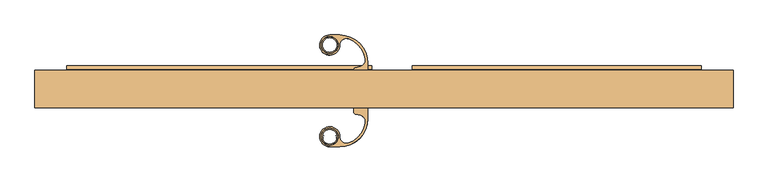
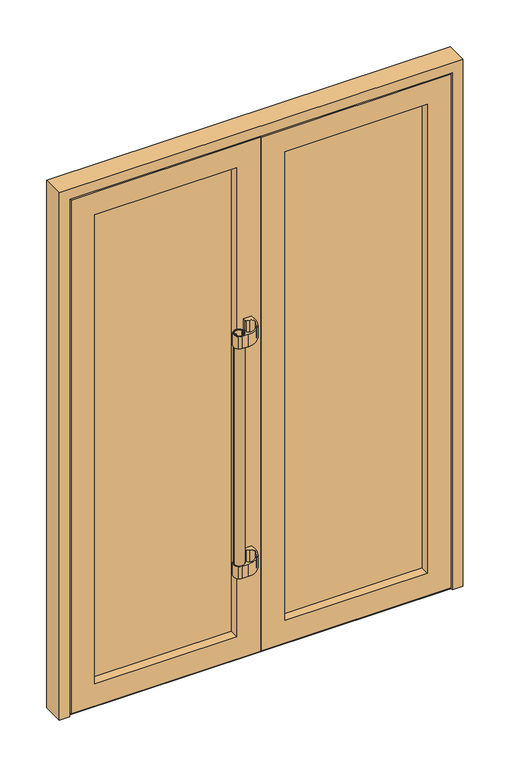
"""IFC4 building model written with IfcOpenShell, lengths in millimetres: door geometry, Dvokrilna vrata__ : Dvokrilna vrata__."""

import ifcopenshell
import ifcopenshell.guid

model = None  # the IFC model being written
_history = None  # IfcOwnerHistory: only IFC2X3 demands one
_inside = {}  # id of a spatial element -> (the spatial element, [elements in it])
_under = {}  # id of a project, library or spatial element -> (it, [spatial elements below it])
_declared = {}  # id of a project -> (the project, [libraries it declares])
_typed = {}  # id of a type object -> (the type object, [elements of that type])
_made_of = {}  # id of a material, layer set ... -> (it, [elements and type objects made of it])


def new_model(schema):
    """Start an empty IFC model of exactly this schema.

    Asked for "IFC4X3", IfcOpenShell would pick the latest addendum, in which some entities
    have other attributes; the version numbers below select the first issue.
    IFC2X3 requires an IfcOwnerHistory on every rooted entity: one is made here for all.
    """
    global model, _history
    if schema == "IFC4X3":
        model = ifcopenshell.file(schema_version=(4, 3, 0, 0))
    else:
        model = ifcopenshell.file(schema=schema)
    _inside.clear()
    _under.clear()
    _declared.clear()
    _typed.clear()
    _made_of.clear()
    _history = None
    if model.schema == "IFC2X3":
        org = make("IfcOrganization", Name="unknown")
        user = make(
            "IfcPersonAndOrganization",
            ThePerson=make("IfcPerson", FamilyName="unknown"),
            TheOrganization=org,
        )
        app = make(
            "IfcApplication",
            ApplicationDeveloper=org,
            Version="unknown",
            ApplicationFullName="unknown",
            ApplicationIdentifier="unknown",
        )
        _history = make(
            "IfcOwnerHistory",
            OwningUser=user,
            OwningApplication=app,
            ChangeAction="ADDED",
            CreationDate=0,
        )
    return model


def make(cls, **values):
    """One entity of the class cls with the attributes given. An attribute that is None is left unset."""
    return model.create_entity(
        cls, **{name: value for name, value in values.items() if value is not None}
    )


def rooted(cls, **values):
    """An entity with a GlobalId (a new one), such as an element, a storey or a relation."""
    return make(cls, GlobalId=ifcopenshell.guid.new(), OwnerHistory=_history, **values)


def si_unit(unit_type, name, prefix=None):
    """IfcSIUnit, for example si_unit("LENGTHUNIT", "METRE", prefix="MILLI")."""
    return make("IfcSIUnit", UnitType=unit_type, Prefix=prefix, Name=name)


def assignment(units):
    """IfcUnitAssignment: the units of a project."""
    return None if units is None else make("IfcUnitAssignment", Units=units)


def point(xyz):
    """IfcCartesianPoint."""
    return None if xyz is None else make("IfcCartesianPoint", Coordinates=xyz)


def direction(xyz):
    """IfcDirection."""
    return None if xyz is None else make("IfcDirection", DirectionRatios=xyz)


def frame(location, z_axis=None, x_axis=None):
    """IfcAxis2Placement3D, a coordinate frame: its origin and axes. An axis left out is left unset."""
    return make(
        "IfcAxis2Placement3D",
        Location=point(location),
        Axis=direction(z_axis),
        RefDirection=direction(x_axis),
    )


def frame_2d(location, x_axis=None):
    """IfcAxis2Placement2D, a coordinate frame in the plane: its origin and x axis."""
    return make(
        "IfcAxis2Placement2D", Location=point(location), RefDirection=direction(x_axis)
    )


def origin():
    """The frame at (0, 0, 0) with its axes left unset."""
    return frame((0.0, 0.0, 0.0))


def place(relative_to, where):
    """IfcLocalPlacement: puts the frame where relative to a parent placement (None: the world)."""
    return make(
        "IfcLocalPlacement", PlacementRelTo=relative_to, RelativePlacement=where
    )


def context(
    kind, dimensions, precision=None, world=None, true_north=None, identifier=None
):
    """IfcGeometricRepresentationContext, for example the 3D "Model" context."""
    return make(
        "IfcGeometricRepresentationContext",
        ContextIdentifier=identifier,
        ContextType=kind,
        CoordinateSpaceDimension=dimensions,
        Precision=precision,
        WorldCoordinateSystem=world,
        TrueNorth=true_north,
    )


def project(units=None, contexts=None):
    """IfcProject with its units and contexts."""
    return rooted(
        "IfcProject",
        Name="project",
        RepresentationContexts=contexts,
        UnitsInContext=assignment(units),
    )


def spatial(cls, under=None, at=None, **own):
    """A site, building, storey or space (cls), placed at a placement, below another one or the project."""
    s = rooted(cls, ObjectPlacement=at, **own)
    if under is not None:
        _under.setdefault(under.id(), (under, []))[1].append(s)
    return s


def polyline(points):
    """IfcPolyline through the points."""
    return make("IfcPolyline", Points=[point(p) for p in points])


def circle_curve(where, radius):
    """IfcCircle in the frame where."""
    return make("IfcCircle", Position=where, Radius=radius)


def trimmed(basis, trim1, trim2, sense, master):
    """IfcTrimmedCurve: the piece of a basis curve between two trims."""
    return make(
        "IfcTrimmedCurve",
        BasisCurve=basis,
        Trim1=trim1,
        Trim2=trim2,
        SenseAgreement=sense,
        MasterRepresentation=master,
    )


def segment(curve, same_sense, transition):
    """IfcCompositeCurveSegment."""
    return make(
        "IfcCompositeCurveSegment",
        Transition=transition,
        SameSense=same_sense,
        ParentCurve=curve,
    )


def composite_curve(segments, self_intersect=None):
    """IfcCompositeCurve: segments joined end to end."""
    return make("IfcCompositeCurve", Segments=segments, SelfIntersect=self_intersect)


def outline(outer, holes=None, kind="AREA"):
    """IfcArbitraryClosedProfileDef: a profile drawn as a closed curve; with holes, ...WithVoids."""
    if holes is None:
        return make("IfcArbitraryClosedProfileDef", ProfileType=kind, OuterCurve=outer)
    return make(
        "IfcArbitraryProfileDefWithVoids",
        ProfileType=kind,
        OuterCurve=outer,
        InnerCurves=holes,
    )


def extrude(swept, where, along, depth):
    """IfcExtrudedAreaSolid: the profile swept, set in the frame where, extruded along a direction by depth."""
    return make(
        "IfcExtrudedAreaSolid",
        SweptArea=swept,
        Position=where,
        ExtrudedDirection=direction(along),
        Depth=depth,
    )


def faces_of(points, faces, orient=None, outer=None):
    """IfcFace entities. A face is a list of loops; a loop is a list of indices into points, from 0.

    orient and outer hold one flag for each loop. By default every Orientation is true, the
    first loop of a face is its IfcFaceOuterBound and the others are IfcFaceBound.
    """
    made = []
    for i, loops in enumerate(faces):
        bounds = []
        for j, loop in enumerate(loops):
            is_outer = j == 0 if outer is None else outer[i][j]
            bounds.append(
                make(
                    "IfcFaceOuterBound" if is_outer else "IfcFaceBound",
                    Bound=make("IfcPolyLoop", Polygon=[points[k] for k in loop]),
                    Orientation=True if orient is None else orient[i][j],
                )
            )
        made.append(make("IfcFace", Bounds=bounds))
    return made


def faceted_brep(points, faces, orient=None, outer=None, voids=None):
    """IfcFacetedBrep: a solid bounded by flat faces; with voids (closed shells), ...WithVoids."""
    shared = [point(p) for p in points]
    hull = make("IfcClosedShell", CfsFaces=faces_of(shared, faces, orient, outer))
    if voids is None:
        return make("IfcFacetedBrep", Outer=hull)
    return make(
        "IfcFacetedBrepWithVoids",
        Outer=hull,
        Voids=[
            make(cls, CfsFaces=faces_of(shared, fs, o, b)) for cls, fs, o, b in voids
        ],
    )


def shape(context_of_items, identifier, shape_type, items):
    """IfcShapeRepresentation: the items that make up one representation, for example the "Body"."""
    return make(
        "IfcShapeRepresentation",
        ContextOfItems=context_of_items,
        RepresentationIdentifier=identifier,
        RepresentationType=shape_type,
        Items=items,
    )


def source(mapping_origin, context_of_items, identifier, shape_type, items):
    """IfcRepresentationMap: a shape defined once, which mapped items show again and again."""
    return make(
        "IfcRepresentationMap",
        MappingOrigin=mapping_origin,
        MappedRepresentation=shape(context_of_items, identifier, shape_type, items),
    )


def transform(
    local_origin,
    x_axis=None,
    y_axis=None,
    z_axis=None,
    scale=None,
    scale2=None,
    scale3=None,
    uniform=True,
):
    """IfcCartesianTransformationOperator3D, or its non-uniform kind. x_axis, y_axis, z_axis: its Axis1, 2, 3."""
    if uniform:
        return make(
            "IfcCartesianTransformationOperator3D",
            Axis1=direction(x_axis),
            Axis2=direction(y_axis),
            LocalOrigin=point(local_origin),
            Scale=scale,
            Axis3=direction(z_axis),
        )
    return make(
        "IfcCartesianTransformationOperator3DnonUniform",
        Axis1=direction(x_axis),
        Axis2=direction(y_axis),
        LocalOrigin=point(local_origin),
        Scale=scale,
        Axis3=direction(z_axis),
        Scale2=scale2,
        Scale3=scale3,
    )


def mapped(mapping_source, mapping_target):
    """IfcMappedItem: shows the shape of a source again, moved by a transform."""
    return make(
        "IfcMappedItem", MappingSource=mapping_source, MappingTarget=mapping_target
    )


def made_of(thing, what):
    """Note that an element or type object is made of a material, layer set ...; save() writes the relation."""
    if what is not None:
        _made_of.setdefault(what.id(), (what, []))[1].append(thing)
    return thing


def element(
    cls,
    number,
    at=None,
    inside=None,
    cuts=None,
    type_object=None,
    material=None,
    context=None,
    identifier="Body",
    shape_type=None,
    held_by="IfcProductDefinitionShape",
    body=None,
    shapes=None,
    **own,
):
    """One element of the class cls, such as IfcWall. Its Tag is "e" and its number.

    at: its placement. inside: the storey or other place that contains it. cuts: it is an
    opening in that element (IfcRelVoidsElement). A single representation is given by context,
    identifier, shape_type and body (its items); several are given by shapes. held_by: the class
    of the entity that holds the representations. save() writes the other relations.
    """
    e = rooted(cls, Tag="e%d" % number, ObjectPlacement=at, **own)
    if body is not None:
        shapes = [shape(context, identifier, shape_type, body)]
    if shapes is not None:
        e.Representation = make(held_by, Representations=shapes)
    if inside is not None:
        _inside.setdefault(inside.id(), (inside, []))[1].append(e)
    if cuts is not None:
        rooted(
            "IfcRelVoidsElement", RelatingBuildingElement=cuts, RelatedOpeningElement=e
        )
    if type_object is not None:
        _typed.setdefault(type_object.id(), (type_object, []))[1].append(e)
    return made_of(e, material)


def aggregate(whole, parts):
    """IfcRelAggregates: a whole, such as a stair, and the parts it consists of."""
    return rooted("IfcRelAggregates", RelatingObject=whole, RelatedObjects=parts)


def save(model, path):
    """Write the relations noted so far, then the file.

    IfcRelAggregates (storeys below a building ...), IfcRelContainedInSpatialStructure (elements
    in a storey), IfcRelDefinesByType, IfcRelAssociatesMaterial and IfcRelDeclares: one each for
    every whole, place, type object, material and project.
    """
    for whole, parts in _under.values():
        aggregate(whole, parts)
    for where, things in _inside.values():
        rooted(
            "IfcRelContainedInSpatialStructure",
            RelatedElements=things,
            RelatingStructure=where,
        )
    for kind, things in _typed.values():
        rooted("IfcRelDefinesByType", RelatedObjects=things, RelatingType=kind)
    for what, things in _made_of.values():
        rooted("IfcRelAssociatesMaterial", RelatedObjects=things, RelatingMaterial=what)
    for by, libraries in _declared.values():
        rooted("IfcRelDeclares", RelatingContext=by, RelatedDefinitions=libraries)
    model.write(path)


def plane_surface(at):
    """IfcPlane: the flat surface through the origin of the frame at, square to its z axis."""
    return make("IfcPlane", Position=at)


def cylinder_surface(at, radius):
    """IfcCylindricalSurface: all points at the distance radius from the z axis of the frame at."""
    return make("IfcCylindricalSurface", Position=at, Radius=radius)


def advanced_brep(points, edges, surfaces, faces):
    """IfcAdvancedBrep: a solid bounded by faces that lie on surfaces and meet in shared edges.

    An edge is (start, end): straight between two places in points (the first is 0);
    or (start, end, curve); or (start, end, curve, False) where it runs against its curve.
    A face is (place in surfaces, loops), or (place, loops, False) where it looks against
    its surface's normal. A loop lists edges by number (the first is 1), with a minus sign
    where the edge is run from its end to its start. The first loop is the outer one.
    """
    corners = [point(p) for p in points]
    vertices = [make("IfcVertexPoint", VertexGeometry=c) for c in corners]
    made = []
    for start, end, *more in edges:
        made.append(
            make(
                "IfcEdgeCurve",
                EdgeStart=vertices[start],
                EdgeEnd=vertices[end],
                EdgeGeometry=more[0] if more else make("IfcPolyline", Points=[corners[start], corners[end]]),
                SameSense=more[1] if len(more) > 1 else True,
            )
        )
    hull = []
    for where, loops, *sense in faces:
        bounds = []
        for j, loop in enumerate(loops):
            ring = [make("IfcOrientedEdge", EdgeElement=made[abs(k) - 1], Orientation=k > 0) for k in loop]
            bounds.append(
                make(
                    "IfcFaceOuterBound" if j == 0 else "IfcFaceBound",
                    Bound=make("IfcEdgeLoop", EdgeList=ring),
                    Orientation=True,
                )
            )
        hull.append(make("IfcAdvancedFace", Bounds=bounds, FaceSurface=surfaces[where], SameSense=sense[0] if sense else True))
    return make("IfcAdvancedBrep", Outer=make("IfcClosedShell", CfsFaces=hull))


def door_72423dee(model_context):
    return source(origin(), model_context, "Body", "SolidModel", [
        extrude(outline(composite_curve([segment(trimmed(circle_curve(frame_2d((-122.8709534, 116.9803023)), 19.0), [point((-103.8709534, 116.9803023))], [point((-141.8709534, 116.9803023))], False, "CARTESIAN"), True, "CONTINUOUS"), segment(trimmed(circle_curve(frame_2d((-122.8709534, 116.9803023)), 19.0), [point((-141.8709534, 116.9803023))], [point((-103.8709534, 116.9803023))], False, "CARTESIAN"), True, "CONTINUOUS")], self_intersect=False), holes=[composite_curve([segment(polyline([(-109.5069689, 118.0763178), (-110.6535702, 118.0763178), (-110.6535702, 119.047467)]), True, "CONTINUOUS"), segment(trimmed(circle_curve(frame_2d((-108.4109534, 116.9803023)), 3.05), [point((-110.6535702, 119.047467))], [point((-108.4109534, 120.0303023))], False, "CARTESIAN"), True, "CONTINUOUS"), segment(polyline([(-108.4109534, 120.0303023), (-107.1643465, 120.0303023)]), True, "CONTINUOUS"), segment(trimmed(circle_curve(frame_2d((-122.8709534, 116.9803023)), 16.0), [point((-107.1643465, 120.0303023))], [point((-138.5775603, 120.0303023))], True, "CARTESIAN"), True, "CONTINUOUS"), segment(polyline([(-138.5775603, 120.0303023), (-137.3709534, 120.0303023)]), True, "CONTINUOUS"), segment(trimmed(circle_curve(frame_2d((-137.3709534, 116.9803023)), 3.05), [point((-137.3709534, 120.0303023))], [point((-135.1283367, 119.047467))], False, "CARTESIAN"), True, "CONTINUOUS"), segment(polyline([(-135.1283367, 119.047467), (-135.1283367, 118.0763178), (-136.2749379, 118.0763178)]), True, "CONTINUOUS"), segment(trimmed(circle_curve(frame_2d((-137.3709534, 116.9803023)), 1.55), [point((-136.2749379, 118.0763178))], [point((-136.2749379, 115.8842868))], True, "CARTESIAN"), True, "CONTINUOUS"), segment(polyline([(-136.2749379, 115.8842868), (-135.1283367, 115.8842868), (-135.1283367, 114.9131375)]), True, "CONTINUOUS"), segment(trimmed(circle_curve(frame_2d((-137.3709534, 116.9803023)), 3.05), [point((-135.1283367, 114.9131375))], [point((-137.3709534, 113.9303023))], False, "CARTESIAN"), True, "CONTINUOUS"), segment(polyline([(-137.3709534, 113.9303023), (-138.5775603, 113.9303023)]), True, "CONTINUOUS"), segment(trimmed(circle_curve(frame_2d((-122.8709534, 116.9803023)), 16.0), [point((-138.5775603, 113.9303023))], [point((-107.1643465, 113.9303023))], True, "CARTESIAN"), True, "CONTINUOUS"), segment(polyline([(-107.1643465, 113.9303023), (-108.4109534, 113.9303023)]), True, "CONTINUOUS"), segment(trimmed(circle_curve(frame_2d((-108.4109534, 116.9803023)), 3.05), [point((-108.4109534, 113.9303023))], [point((-110.6535702, 114.9131375))], False, "CARTESIAN"), True, "CONTINUOUS"), segment(polyline([(-110.6535702, 114.9131375), (-110.6535702, 115.8842868), (-109.5069689, 115.8842868)]), True, "CONTINUOUS"), segment(trimmed(circle_curve(frame_2d((-108.4109534, 116.9803023)), 1.55), [point((-109.5069689, 115.8842868))], [point((-109.5069689, 118.0763178))], True, "CARTESIAN"), True, "CONTINUOUS")], self_intersect=False)]), frame((0.0, 0.0, 416.8), z_axis=(0.0, 0.0, 1.0), x_axis=(1.0, 0.0, 0.0)), (0.0, 0.0, 1.0), 1000.0),
        extrude(outline(composite_curve([segment(polyline([(-41.3240763, 51.53254), (-68.3240763, 51.53254), (-68.3240763, 60.8344689)]), True, "CONTINUOUS"), segment(trimmed(circle_curve(frame_2d((-63.3240763, 60.8344689)), 5.0), [point((-68.3240763, 60.8344689))], [point((-64.6181715, 65.664098))], False, "CARTESIAN"), True, "CONTINUOUS"), segment(polyline([(-64.6181715, 65.664098), (-53.0878243, 68.7536452)]), True, "CONTINUOUS"), segment(trimmed(circle_curve(frame_2d((-56.9710976, 83.2462185)), 15.0038159), [point((-53.0878243, 68.7536452))], [point((-42.2562303, 86.1766062))], True, "CARTESIAN"), True, "CONTINUOUS"), segment(trimmed(circle_curve(frame_2d((-100.251739, 75.7910005)), 58.9180773), [point((-42.2562303, 86.1766062))], [point((-79.9530996, 131.1019855))], True, "CARTESIAN"), True, "CONTINUOUS"), segment(trimmed(circle_curve(frame_2d((-85.1209618, 117.0202758)), 15.0000449), [point((-79.9530996, 131.1019855))], [point((-100.1209534, 116.9803023))], True, "CARTESIAN"), True, "CONTINUOUS"), segment(trimmed(circle_curve(frame_2d((-122.7525861, 116.9199911)), 22.631713), [point((-100.1209534, 116.9803023))], [point((-109.4988389, 98.5751656))], False, "CARTESIAN"), True, "CONTINUOUS"), segment(trimmed(circle_curve(frame_2d((-122.8658949, 117.0768245)), 22.8251959), [point((-109.4988389, 98.5751656))], [point((-138.0936747, 100.0737575))], False, "CARTESIAN"), True, "CONTINUOUS"), segment(trimmed(circle_curve(frame_2d((-122.9486906, 116.9843763)), 22.7010919), [point((-138.0936747, 100.0737575))], [point((-136.2430679, 135.3854389))], False, "CARTESIAN"), True, "CONTINUOUS"), segment(trimmed(circle_curve(frame_2d((-122.806809, 116.7879946)), 22.9433648), [point((-136.2430679, 135.3854389))], [point((-123.2252541, 139.7275432))], False, "CARTESIAN"), True, "CONTINUOUS"), segment(polyline([(-123.2252541, 139.7275432), (-100.3213173, 139.7275432)]), True, "CONTINUOUS"), segment(trimmed(circle_curve(frame_2d((-100.3213173, 75.7303023)), 63.997241), [point((-100.3213173, 139.7275432))], [point((-36.3240763, 75.7303023))], False, "CARTESIAN"), True, "CONTINUOUS"), segment(polyline([(-36.3240763, 75.7303023), (-36.3240763, 51.53254), (-41.3240763, 51.53254)]), True, "CONTINUOUS")], self_intersect=False), holes=[composite_curve([segment(trimmed(circle_curve(frame_2d((-122.8709534, 116.9803023)), 19.25), [point((-103.6209534, 116.9803023))], [point((-142.1209534, 116.9803023))], True, "CARTESIAN"), True, "CONTINUOUS"), segment(trimmed(circle_curve(frame_2d((-122.8709534, 116.9803023)), 19.25), [point((-142.1209534, 116.9803023))], [point((-103.6209534, 116.9803023))], True, "CARTESIAN"), True, "CONTINUOUS")], self_intersect=False)]), frame((0.0, 0.0, 1366.8), z_axis=(0.0, 0.0, 1.0), x_axis=(1.0, 0.0, 0.0)), (0.0, 0.0, 1.0), 50.0),
        extrude(outline(composite_curve([segment(polyline([(-41.3240763, 51.53254), (-68.3240763, 51.53254), (-68.3240763, 60.8344689)]), True, "CONTINUOUS"), segment(trimmed(circle_curve(frame_2d((-63.3240763, 60.8344689)), 5.0), [point((-68.3240763, 60.8344689))], [point((-64.6181715, 65.664098))], False, "CARTESIAN"), True, "CONTINUOUS"), segment(polyline([(-64.6181715, 65.664098), (-53.0878243, 68.7536452)]), True, "CONTINUOUS"), segment(trimmed(circle_curve(frame_2d((-56.9710976, 83.2462185)), 15.0038159), [point((-53.0878243, 68.7536452))], [point((-42.2562303, 86.1766062))], True, "CARTESIAN"), True, "CONTINUOUS"), segment(trimmed(circle_curve(frame_2d((-100.251739, 75.7910005)), 58.9180773), [point((-42.2562303, 86.1766062))], [point((-79.9530996, 131.1019855))], True, "CARTESIAN"), True, "CONTINUOUS"), segment(trimmed(circle_curve(frame_2d((-85.1209618, 117.0202758)), 15.0000449), [point((-79.9530996, 131.1019855))], [point((-100.1209534, 116.9803023))], True, "CARTESIAN"), True, "CONTINUOUS"), segment(trimmed(circle_curve(frame_2d((-122.7525861, 116.9199911)), 22.631713), [point((-100.1209534, 116.9803023))], [point((-109.4988389, 98.5751656))], False, "CARTESIAN"), True, "CONTINUOUS"), segment(trimmed(circle_curve(frame_2d((-122.8658949, 117.0768245)), 22.8251959), [point((-109.4988389, 98.5751656))], [point((-138.0936747, 100.0737575))], False, "CARTESIAN"), True, "CONTINUOUS"), segment(trimmed(circle_curve(frame_2d((-122.9486906, 116.9843763)), 22.7010919), [point((-138.0936747, 100.0737575))], [point((-136.2430679, 135.3854389))], False, "CARTESIAN"), True, "CONTINUOUS"), segment(trimmed(circle_curve(frame_2d((-122.806809, 116.7879946)), 22.9433648), [point((-136.2430679, 135.3854389))], [point((-123.2252541, 139.7275432))], False, "CARTESIAN"), True, "CONTINUOUS"), segment(polyline([(-123.2252541, 139.7275432), (-100.3213173, 139.7275432)]), True, "CONTINUOUS"), segment(trimmed(circle_curve(frame_2d((-100.3213173, 75.7303023)), 63.997241), [point((-100.3213173, 139.7275432))], [point((-36.3240763, 75.7303023))], False, "CARTESIAN"), True, "CONTINUOUS"), segment(polyline([(-36.3240763, 75.7303023), (-36.3240763, 51.53254), (-41.3240763, 51.53254)]), True, "CONTINUOUS")], self_intersect=False), holes=[composite_curve([segment(trimmed(circle_curve(frame_2d((-122.8709534, 116.9803023)), 19.25), [point((-103.6209534, 116.9803023))], [point((-142.1209534, 116.9803023))], True, "CARTESIAN"), True, "CONTINUOUS"), segment(trimmed(circle_curve(frame_2d((-122.8709534, 116.9803023)), 19.25), [point((-142.1209534, 116.9803023))], [point((-103.6209534, 116.9803023))], True, "CARTESIAN"), True, "CONTINUOUS")], self_intersect=False)]), frame((0.0, 0.0, 416.8), z_axis=(0.0, 0.0, 1.0), x_axis=(1.0, 0.0, 0.0)), (0.0, 0.0, 1.0), 50.0),
        extrude(outline(composite_curve([segment(trimmed(circle_curve(frame_2d((-122.8709534, -90.4477622)), 19.0), [point((-103.8709534, -90.4477622))], [point((-141.8709534, -90.4477622))], False, "CARTESIAN"), True, "CONTINUOUS"), segment(trimmed(circle_curve(frame_2d((-122.8709534, -90.4477622)), 19.0), [point((-141.8709534, -90.4477622))], [point((-103.8709534, -90.4477622))], False, "CARTESIAN"), True, "CONTINUOUS")], self_intersect=False), holes=[composite_curve([segment(trimmed(circle_curve(frame_2d((-108.4109534, -90.4477622)), 1.55), [point((-109.5069689, -91.5437777))], [point((-109.5069689, -89.3517467))], True, "CARTESIAN"), True, "CONTINUOUS"), segment(polyline([(-109.5069689, -89.3517467), (-110.6535702, -89.3517467), (-110.6535702, -88.3805975)]), True, "CONTINUOUS"), segment(trimmed(circle_curve(frame_2d((-108.4109534, -90.4477622)), 3.05), [point((-110.6535702, -88.3805975))], [point((-108.4109534, -87.3977622))], False, "CARTESIAN"), True, "CONTINUOUS"), segment(polyline([(-108.4109534, -87.3977622), (-107.1643465, -87.3977622)]), True, "CONTINUOUS"), segment(trimmed(circle_curve(frame_2d((-122.8709534, -90.4477622)), 16.0), [point((-107.1643465, -87.3977622))], [point((-138.5775603, -87.3977622))], True, "CARTESIAN"), True, "CONTINUOUS"), segment(polyline([(-138.5775603, -87.3977622), (-137.3709534, -87.3977622)]), True, "CONTINUOUS"), segment(trimmed(circle_curve(frame_2d((-137.3709534, -90.4477622)), 3.05), [point((-137.3709534, -87.3977622))], [point((-135.1283367, -88.3805975))], False, "CARTESIAN"), True, "CONTINUOUS"), segment(polyline([(-135.1283367, -88.3805975), (-135.1283367, -89.3517467), (-136.2749379, -89.3517467)]), True, "CONTINUOUS"), segment(trimmed(circle_curve(frame_2d((-137.3709534, -90.4477622)), 1.55), [point((-136.2749379, -89.3517467))], [point((-136.2749379, -91.5437777))], True, "CARTESIAN"), True, "CONTINUOUS"), segment(polyline([(-136.2749379, -91.5437777), (-135.1283367, -91.5437777), (-135.1283367, -92.514927)]), True, "CONTINUOUS"), segment(trimmed(circle_curve(frame_2d((-137.3709534, -90.4477622)), 3.05), [point((-135.1283367, -92.514927))], [point((-137.3709534, -93.4977622))], False, "CARTESIAN"), True, "CONTINUOUS"), segment(polyline([(-137.3709534, -93.4977622), (-138.5775603, -93.4977622)]), True, "CONTINUOUS"), segment(trimmed(circle_curve(frame_2d((-122.8709534, -90.4477622)), 16.0), [point((-138.5775603, -93.4977622))], [point((-107.1643465, -93.4977622))], True, "CARTESIAN"), True, "CONTINUOUS"), segment(polyline([(-107.1643465, -93.4977622), (-108.4109534, -93.4977622)]), True, "CONTINUOUS"), segment(trimmed(circle_curve(frame_2d((-108.4109534, -90.4477622)), 3.05), [point((-108.4109534, -93.4977622))], [point((-110.6535702, -92.514927))], False, "CARTESIAN"), True, "CONTINUOUS"), segment(polyline([(-110.6535702, -92.514927), (-110.6535702, -91.5437777), (-109.5069689, -91.5437777)]), True, "CONTINUOUS")], self_intersect=False)]), frame((0.0, 0.0, 416.8), z_axis=(0.0, 0.0, 1.0), x_axis=(1.0, 0.0, 0.0)), (0.0, 0.0, 1.0), 1000.0),
        extrude(outline(composite_curve([segment(polyline([(-41.3240763, -25.0), (-36.3240763, -25.0), (-36.3240763, -49.1977622)]), True, "CONTINUOUS"), segment(trimmed(circle_curve(frame_2d((-100.3213173, -49.1977622)), 63.997241), [point((-36.3240763, -49.1977622))], [point((-100.3213173, -113.1950032))], False, "CARTESIAN"), True, "CONTINUOUS"), segment(polyline([(-100.3213173, -113.1950032), (-123.2252541, -113.1950032)]), True, "CONTINUOUS"), segment(trimmed(circle_curve(frame_2d((-122.806809, -90.2554545)), 22.9433648), [point((-123.2252541, -113.1950032))], [point((-136.2430679, -108.8528989))], False, "CARTESIAN"), True, "CONTINUOUS"), segment(trimmed(circle_curve(frame_2d((-122.9486906, -90.4518363)), 22.7010919), [point((-136.2430679, -108.8528989))], [point((-138.0936747, -73.5412175))], False, "CARTESIAN"), True, "CONTINUOUS"), segment(trimmed(circle_curve(frame_2d((-122.8658949, -90.5442845)), 22.8251959), [point((-138.0936747, -73.5412175))], [point((-109.4988389, -72.0426256))], False, "CARTESIAN"), True, "CONTINUOUS"), segment(trimmed(circle_curve(frame_2d((-122.7525861, -90.3874511)), 22.631713), [point((-109.4988389, -72.0426256))], [point((-100.1209534, -90.4477622))], False, "CARTESIAN"), True, "CONTINUOUS"), segment(trimmed(circle_curve(frame_2d((-85.1209618, -90.4877358)), 15.0000449), [point((-100.1209534, -90.4477622))], [point((-79.9530996, -104.5694455))], True, "CARTESIAN"), True, "CONTINUOUS"), segment(trimmed(circle_curve(frame_2d((-100.251739, -49.2584604)), 58.9180773), [point((-79.9530996, -104.5694455))], [point((-42.2562303, -59.6440661))], True, "CARTESIAN"), True, "CONTINUOUS"), segment(trimmed(circle_curve(frame_2d((-56.9710976, -56.7136785)), 15.0038159), [point((-42.2562303, -59.6440661))], [point((-53.0878243, -42.2211052))], True, "CARTESIAN"), True, "CONTINUOUS"), segment(polyline([(-53.0878243, -42.2211052), (-64.6181715, -39.131558)]), True, "CONTINUOUS"), segment(trimmed(circle_curve(frame_2d((-63.3240763, -34.3019289)), 5.0), [point((-64.6181715, -39.131558))], [point((-68.3240763, -34.3019289))], False, "CARTESIAN"), True, "CONTINUOUS"), segment(polyline([(-68.3240763, -34.3019289), (-68.3240763, -25.0), (-41.3240763, -25.0)]), True, "CONTINUOUS")], self_intersect=False), holes=[composite_curve([segment(trimmed(circle_curve(frame_2d((-122.8709534, -90.4477622)), 19.25), [point((-103.6209534, -90.4477622))], [point((-142.1209534, -90.4477622))], True, "CARTESIAN"), True, "CONTINUOUS"), segment(trimmed(circle_curve(frame_2d((-122.8709534, -90.4477622)), 19.25), [point((-142.1209534, -90.4477622))], [point((-103.6209534, -90.4477622))], True, "CARTESIAN"), True, "CONTINUOUS")], self_intersect=False)]), frame((0.0, 0.0, 1366.8), z_axis=(0.0, 0.0, 1.0), x_axis=(1.0, 0.0, 0.0)), (0.0, 0.0, 1.0), 50.0),
        extrude(outline(composite_curve([segment(polyline([(-41.3240763, -25.0), (-36.3240763, -25.0), (-36.3240763, -49.1977622)]), True, "CONTINUOUS"), segment(trimmed(circle_curve(frame_2d((-100.3213173, -49.1977622)), 63.997241), [point((-36.3240763, -49.1977622))], [point((-100.3213173, -113.1950032))], False, "CARTESIAN"), True, "CONTINUOUS"), segment(polyline([(-100.3213173, -113.1950032), (-123.2252541, -113.1950032)]), True, "CONTINUOUS"), segment(trimmed(circle_curve(frame_2d((-122.806809, -90.2554545)), 22.9433648), [point((-123.2252541, -113.1950032))], [point((-136.2430679, -108.8528989))], False, "CARTESIAN"), True, "CONTINUOUS"), segment(trimmed(circle_curve(frame_2d((-122.9486906, -90.4518363)), 22.7010919), [point((-136.2430679, -108.8528989))], [point((-138.0936747, -73.5412175))], False, "CARTESIAN"), True, "CONTINUOUS"), segment(trimmed(circle_curve(frame_2d((-122.8658949, -90.5442845)), 22.8251959), [point((-138.0936747, -73.5412175))], [point((-109.4988389, -72.0426256))], False, "CARTESIAN"), True, "CONTINUOUS"), segment(trimmed(circle_curve(frame_2d((-122.7525861, -90.3874511)), 22.631713), [point((-109.4988389, -72.0426256))], [point((-100.1209534, -90.4477622))], False, "CARTESIAN"), True, "CONTINUOUS"), segment(trimmed(circle_curve(frame_2d((-85.1209618, -90.4877358)), 15.0000449), [point((-100.1209534, -90.4477622))], [point((-79.9530996, -104.5694455))], True, "CARTESIAN"), True, "CONTINUOUS"), segment(trimmed(circle_curve(frame_2d((-100.251739, -49.2584604)), 58.9180773), [point((-79.9530996, -104.5694455))], [point((-42.2562303, -59.6440661))], True, "CARTESIAN"), True, "CONTINUOUS"), segment(trimmed(circle_curve(frame_2d((-56.9710976, -56.7136785)), 15.0038159), [point((-42.2562303, -59.6440661))], [point((-53.0878243, -42.2211052))], True, "CARTESIAN"), True, "CONTINUOUS"), segment(polyline([(-53.0878243, -42.2211052), (-64.6181715, -39.131558)]), True, "CONTINUOUS"), segment(trimmed(circle_curve(frame_2d((-63.3240763, -34.3019289)), 5.0), [point((-64.6181715, -39.131558))], [point((-68.3240763, -34.3019289))], False, "CARTESIAN"), True, "CONTINUOUS"), segment(polyline([(-68.3240763, -34.3019289), (-68.3240763, -25.0), (-41.3240763, -25.0)]), True, "CONTINUOUS")], self_intersect=False), holes=[composite_curve([segment(trimmed(circle_curve(frame_2d((-122.8709534, -90.4477622)), 19.25), [point((-103.6209534, -90.4477622))], [point((-142.1209534, -90.4477622))], True, "CARTESIAN"), True, "CONTINUOUS"), segment(trimmed(circle_curve(frame_2d((-122.8709534, -90.4477622)), 19.25), [point((-142.1209534, -90.4477622))], [point((-103.6209534, -90.4477622))], True, "CARTESIAN"), True, "CONTINUOUS")], self_intersect=False)]), frame((0.0, 0.0, 416.8), z_axis=(0.0, 0.0, 1.0), x_axis=(1.0, 0.0, 0.0)), (0.0, 0.0, 1.0), 50.0),
        extrude(outline(polyline([(-80.3200005, 51.4893357), (-80.3200005, 11.53254), (-666.0069224, 11.53254), (-666.0069224, 51.4893357), (-80.3200005, 51.4893357)])), frame((0.0, 0.0, 97.4957057), z_axis=(0.0, 0.0, 1.0), x_axis=(1.0, 0.0, 0.0)), (0.0, 0.0, 1.0), 1968.5085885),
        faceted_brep([(-666.0069224, 11.5255245, 2066.0069224), (-666.0069224, 11.5255245, 97.4930776), (-666.0069224, 51.5255245, 97.4930776), (-666.0069224, 51.5255245, 2066.0069224), (-80.3200005, 51.5255245, 97.4930776), (-80.3200005, 51.5255245, 2066.0069224), (-651.0069241, 51.5255245, 112.4930759), (-651.0069241, 51.5255245, 2051.0069241), (-95.3199987, 51.5255245, 2051.0069241), (-95.3199987, 51.5255245, 112.4930759), (-80.3200005, 11.5255245, 97.4930776), (-80.3200005, 11.5255245, 2066.0069224), (-651.0069179, 11.5255245, 2051.0069179), (-651.0069179, 11.5255245, 112.4930821), (-95.320005, 11.5255245, 112.4930821), (-95.320005, 11.5255245, 2051.0069179), (-651.0069241, 59.992971, 112.4930759), (-651.0069241, 59.992971, 2051.0069241), (-718.5028465, 59.992971, 44.9971535), (-718.5028465, 59.992971, 2118.5028465), (-27.8240763, 59.992971, 2118.5028465), (-27.8240763, 59.992971, 44.9971535), (-95.3199987, 59.992971, 112.4930759), (-95.3199987, 59.992971, 2051.0069241), (-718.5028465, 51.4893357, 44.9971535), (-718.5028465, 51.4893357, 2118.5028465), (-728.6569229, 51.4893357, 34.8430771), (-728.6569229, 51.4893357, 2128.6569229), (-17.67, 51.4893357, 2128.6569229), (-17.67, 51.4893357, 34.8430771), (-27.8240763, 51.4893357, 44.9971535), (-27.8240763, 51.4893357, 2118.5028465), (-728.6569229, -16.5058708, 34.8430771), (-728.6569229, -16.5058708, 2128.6569229), (-743.5028465, -16.5058708, 19.9971535), (-743.5028465, -16.5058708, 2143.5028465), (-2.8240763, -16.5058708, 2143.5028465), (-2.8240763, -16.5058708, 19.9971535), (-17.67, -16.5058708, 34.8430771), (-17.67, -16.5058708, 2128.6569229), (-743.5028465, -25.0070155, 19.9971535), (-743.5028465, -25.0070155, 2143.5028465), (-2.8240763, -25.0070155, 19.9971535), (-2.8240763, -25.0070155, 2143.5028465), (-651.0069179, -25.0070155, 112.4930821), (-651.0069179, -25.0070155, 2051.0069179), (-95.320005, -25.0070155, 2051.0069179), (-95.320005, -25.0070155, 112.4930821)], [[[0, 1, 2, 3]], [[3, 2, 4, 5], [6, 7, 8, 9]], [[1, 10, 4, 2]], [[1, 0, 11, 10], [12, 13, 14, 15]], [[7, 6, 16, 17]], [[18, 19, 20, 21], [17, 16, 22, 23]], [[6, 9, 22, 16]], [[19, 18, 24, 25]], [[26, 27, 28, 29], [25, 24, 30, 31]], [[18, 21, 30, 24]], [[27, 26, 32, 33]], [[34, 35, 36, 37], [33, 32, 38, 39]], [[26, 29, 38, 32]], [[35, 34, 40, 41]], [[41, 40, 42, 43], [44, 45, 46, 47]], [[34, 37, 42, 40]], [[10, 11, 5, 4]], [[9, 8, 23, 22]], [[21, 20, 31, 30]], [[29, 28, 39, 38]], [[37, 36, 43, 42]], [[47, 46, 15, 14]], [[44, 47, 14, 13]], [[45, 44, 13, 12]], [[11, 0, 3, 5]], [[8, 7, 17, 23]], [[20, 19, 25, 31]], [[28, 27, 33, 39]], [[36, 35, 41, 43]], [[46, 45, 12, 15]]]),
        extrude(outline(polyline([(61.0448612, 43.8392915), (53.9198405, 43.8392915), (52.78254, 42.6978701), (52.78254, 33.5925953), (46.650434, 33.5925953), (47.6829794, 27.9186976), (45.1883562, 28.3686565), (41.7786291, 28.6424177), (42.7124913, 33.5925953), (39.78254, 33.5925953), (39.78254, 34.8390008), (51.53254, 34.8390008), (51.53254, 44.9930771), (61.6097316, 44.9930771), (70.0861754, 35.9032041), (70.0861754, 33.876672), (68.5861754, 33.876672), (68.5861754, 35.7522222), (61.0448612, 43.8392915)])), frame((-718.5028465, 0.0, 0.0), z_axis=(1.0, 0.0, 0.0), x_axis=(0.0, 1.0, 0.0)), (0.0, 0.0, 1.0), 690.6787702),
        faceted_brep([(666.0069224, 11.5255245, 2066.0069224), (666.0069224, 51.5255245, 2066.0069224), (666.0069224, 51.5255245, 97.4930776), (666.0069224, 11.5255245, 97.4930776), (79.6730688, 51.5255245, 2066.0069224), (79.6730688, 51.5255245, 97.4930776), (651.0069241, 51.5255245, 2051.0069241), (651.0069241, 51.5255245, 112.4930759), (94.673067, 51.5255245, 112.4930759), (94.673067, 51.5255245, 2051.0069241), (79.6730688, 11.5255245, 97.4930776), (79.6730688, 11.5255245, 2066.0069224), (651.0069179, 11.5255245, 2051.0069179), (94.6730733, 11.5255245, 2051.0069179), (94.6730733, 11.5255245, 112.4930821), (651.0069179, 11.5255245, 112.4930821), (651.0069241, 59.992971, 2051.0069241), (651.0069241, 59.992971, 112.4930759), (718.5028465, 59.992971, 2118.5028465), (718.5028465, 59.992971, 44.9971535), (27.1771446, 59.992971, 44.9971535), (27.1771446, 59.992971, 2118.5028465), (94.673067, 59.992971, 2051.0069241), (94.673067, 59.992971, 112.4930759), (718.5028465, 51.4893357, 2118.5028465), (718.5028465, 51.4893357, 44.9971535), (728.6569229, 51.4893357, 2128.6569229), (728.6569229, 51.4893357, 34.8430771), (17.0230683, 51.4893357, 34.8430771), (17.0230683, 51.4893357, 48.4941207), (22.1748082, 51.4893357, 48.4941207), (22.1748082, 51.4893357, 2115.0028465), (17.0230683, 51.4893357, 2115.0028465), (17.0230683, 51.4893357, 2128.6569229), (27.1771446, 51.4893357, 2118.5028465), (27.1771446, 51.4893357, 44.9971535), (728.6569229, -16.5058708, 2128.6569229), (728.6569229, -16.5058708, 34.8430771), (17.0230683, -16.5058708, 2128.6569229), (17.0230683, -16.5058708, 2115.0028465), (2.1771446, -16.5058708, 2115.0028465), (2.1771446, -16.5058708, 2143.5028465), (743.5028465, -16.5058708, 2143.5028465), (743.5028465, -16.5058708, 19.9971535), (2.1771446, -16.5058708, 19.9971535), (2.1771446, -16.5058708, 48.4941207), (17.0230683, -16.5058708, 48.4941207), (17.0230683, -16.5058708, 34.8430771), (743.5028465, -25.0070155, 2143.5028465), (743.5028465, -25.0070155, 19.9971535), (2.1771446, -25.0070155, 2143.5028465), (2.1771446, -25.0070155, 19.9971535), (651.0069179, -25.0070155, 112.4930821), (94.6730733, -25.0070155, 112.4930821), (94.6730733, -25.0070155, 2051.0069179), (651.0069179, -25.0070155, 2051.0069179), (-7.33, -16.4963018, 48.4941207), (-7.33, 51.5324844, 48.4941207), (-22.822721, 51.5324844, 48.4941207), (-22.822721, 60.00254, 48.4941207), (22.1748082, 60.00254, 48.4941207), (-7.33, -16.4963018, 2115.0028465), (22.1748082, 60.00254, 2115.0028465), (-7.33, 51.5324844, 2115.0028465), (-22.822721, 51.5324844, 2115.0028465), (-22.822721, 60.00254, 2115.0028465)], [[[0, 1, 2, 3]], [[2, 1, 4, 5], [6, 7, 8, 9]], [[3, 2, 5, 10]], [[0, 3, 10, 11], [12, 13, 14, 15]], [[6, 16, 17, 7]], [[18, 19, 20, 21], [17, 16, 22, 23]], [[7, 17, 23, 8]], [[18, 24, 25, 19]], [[26, 27, 28, 29, 30, 31, 32, 33], [25, 24, 34, 35]], [[19, 25, 35, 20]], [[26, 36, 37, 27]], [[37, 36, 38, 39, 40, 41, 42, 43, 44, 45, 46, 47]], [[27, 37, 47, 28]], [[42, 48, 49, 43]], [[49, 48, 50, 51], [52, 53, 54, 55]], [[43, 49, 51, 44]], [[10, 5, 4, 11]], [[8, 23, 22, 9]], [[20, 35, 34, 21]], [[28, 47, 46, 29]], [[38, 33, 32, 39]], [[44, 51, 50, 41, 40, 45]], [[56, 57, 58, 59, 60, 30, 29, 46, 45]], [[61, 56, 45, 40]], [[14, 13, 54, 53]], [[15, 14, 53, 52]], [[12, 15, 52, 55]], [[62, 31, 30, 60]], [[61, 63, 57, 56]], [[63, 64, 58, 57]], [[64, 65, 59, 58]], [[65, 62, 60, 59]], [[1, 0, 11, 4]], [[16, 6, 9, 22]], [[24, 18, 21, 34]], [[36, 26, 33, 38]], [[48, 42, 41, 50]], [[13, 12, 55, 54]], [[31, 62, 65, 64, 63, 61, 40, 39, 32]]]),
        extrude(outline(polyline([(79.6730688, 51.4893357), (666.0069224, 51.4893357), (666.0069224, 11.53254), (79.6730688, 11.53254), (79.6730688, 51.4893357)])), frame((0.0, 0.0, 97.4957057), z_axis=(0.0, 0.0, 1.0), x_axis=(1.0, 0.0, 0.0)), (0.0, 0.0, 1.0), 1968.5085885),
        extrude(outline(polyline([(61.0448612, 43.8392915), (53.9198405, 43.8392915), (52.78254, 42.6978701), (52.78254, 33.5925953), (46.650434, 33.5925953), (47.6829794, 27.9186976), (45.1883562, 28.3686565), (41.7786291, 28.6424177), (42.7124913, 33.5925953), (39.78254, 33.5925953), (39.78254, 34.8390008), (51.53254, 34.8390008), (51.53254, 44.9930771), (61.6097316, 44.9930771), (70.0861754, 35.9032041), (70.0861754, 33.876672), (68.5861754, 33.876672), (68.5861754, 35.7522222), (61.0448612, 43.8392915)])), frame((64.1671535, 0.0, 0.0), z_axis=(1.0, 0.0, 0.0), x_axis=(0.0, 1.0, 0.0)), (0.0, 0.0, 1.0), 654.3356931),
        advanced_brep(
        [(-748.4976427, -16.4989266, 10.0), (-748.4976427, -25.0, 10.0), (-790.0, -25.0, 10.0), (-790.0, 59.992971, 10.0), (790.0, 59.992971, 10.0), (790.0, -25.0, 10.0), (748.4976427, -25.0, 10.0), (748.4976427, -16.4989266, 10.0), (-748.4976427, -16.4989266, 2148.4976427), (-748.4976427, -25.0, 2148.4976427), (748.4976427, -25.0, 2148.4976427), (790.0, -25.0, 2190.0), (-790.0, -25.0, 2190.0), (-790.0, 59.992971, 2190.0), (790.0, 59.992971, 2190.0), (-723.5002181, 59.992971, 2123.5002181), (-723.5002181, 59.992971, 25.6983046), (723.5002181, 59.992971, 25.6983046), (723.5002181, 59.992971, 2123.5002181), (748.4976427, -16.4989266, 2148.4976427), (738.997643, -16.4989266, 2138.997643), (738.997643, -16.4989266, 25.5020091), (-738.997643, -16.4989266, 25.5020091), (-738.997643, -16.4989266, 2138.997643), (-723.5002181, 51.496914, 2123.5002181), (723.5002181, 51.496914, 2123.5002181), (723.5002181, 51.496914, 27.2307511), (738.997643, 51.496914, 27.2307511), (738.997643, 51.496914, 2138.997643), (-738.997643, 51.496914, 2138.997643), (-738.997643, 51.496914, 27.2307511), (-723.5002181, 51.496914, 27.2307511), (-738.997643, 45.1387179, 28.3775885), (738.997643, 45.1387179, 28.3775885), (738.997643, 24.6482877, 30.02273), (738.997643, 22.834683, 29.5983726), (738.997643, 16.0853345, 25.5020091), (-738.997643, 16.0853345, 25.5020091), (-738.997643, 22.834683, 29.5983726), (-738.997643, 24.6482877, 30.02273)],
        [
            (0, 1),
            (1, 2),
            (2, 3),
            (3, 4),
            (4, 5),
            (5, 6),
            (6, 7),
            (7, 0),
            (0, 8),
            (8, 9),
            (9, 1),
            (9, 10),
            (10, 6),
            (5, 11),
            (11, 12),
            (12, 2),
            (13, 3),
            (12, 13),
            (13, 14),
            (14, 4),
            (15, 16),
            (16, 17),
            (17, 18),
            (18, 15),
            (14, 11),
            (10, 19),
            (19, 7),
            (19, 8),
            (20, 21),
            (21, 22),
            (22, 23),
            (23, 20),
            (24, 25),
            (25, 26),
            (26, 27),
            (27, 28),
            (28, 29),
            (29, 30),
            (30, 31),
            (31, 24),
            (25, 18),
            (17, 26),
            (16, 31),
            (30, 32),
            (32, 33),
            (33, 27),
            (20, 28),
            (33, 34),
            (34, 35, circle_curve(frame((738.997643, 24.3912134, 27.0337648), z_axis=(1.0, 0.0, 0.0), x_axis=(0.0, -0.5188434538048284, 0.8548692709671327)), 3.0)),
            (35, 36),
            (36, 21),
            (29, 23),
            (22, 37),
            (37, 38),
            (38, 39, circle_curve(frame((-738.997643, 24.3912134, 27.0337648), z_axis=(-1.0, 0.0, 0.0), x_axis=(0.0, -0.5188434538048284, 0.8548692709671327)), 3.0)),
            (39, 32),
            (15, 24),
            (36, 37),
            (35, 38),
            (34, 39),
        ],
        [
            plane_surface(frame((-790.0, -25.0, 10.0), z_axis=(0.0, 0.0, -1.0), x_axis=(0.0, 1.0, 0.0))),
            plane_surface(frame((-748.4976427, -16.4989266, 10.0), z_axis=(1.0, 0.0, 0.0), x_axis=(0.0, 0.0, 1.0))),
            plane_surface(frame((-748.4976427, -25.0, 10.0), z_axis=(0.0, -1.0, 0.0), x_axis=(0.0, 0.0, 1.0))),
            plane_surface(frame((-790.0, -25.0, 10.0), z_axis=(-1.0, 0.0, 0.0), x_axis=(0.0, 0.0, 1.0))),
            plane_surface(frame((-790.0, 59.992971, 10.0), z_axis=(0.0, 1.0, 0.0), x_axis=(0.0, 0.0, 1.0))),
            plane_surface(frame((790.0, -25.0, 2190.0), z_axis=(1.0, 0.0, 0.0), x_axis=(0.0, 0.0, -1.0))),
            plane_surface(frame((748.4976427, -16.4989266, 2148.4976427), z_axis=(-1.0, 0.0, 0.0), x_axis=(0.0, 0.0, -1.0))),
            plane_surface(frame((-738.997643, -16.4989266, 10.0), z_axis=(0.0, -1.0, 0.0), x_axis=(0.0, 0.0, 1.0))),
            plane_surface(frame((-723.5002181, 51.496914, 10.0), z_axis=(0.0, -1.0, 0.0), x_axis=(0.0, 0.0, 1.0))),
            plane_surface(frame((723.5002181, 59.992971, 2123.5002181), z_axis=(-1.0, 0.0, 0.0), x_axis=(0.0, 0.0, -1.0))),
            plane_surface(frame((-790.0, 45.1387179, 28.3775885), z_axis=(0.0, 0.17750711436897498, 0.9841195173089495), x_axis=(1.0, 0.0, 0.0))),
            plane_surface(frame((738.997643, 51.496914, 2138.997643), z_axis=(-1.0, 0.0, 0.0), x_axis=(0.0, 0.0, -1.0))),
            plane_surface(frame((-738.997643, 51.496914, 10.0), z_axis=(1.0, 0.0, 0.0), x_axis=(0.0, 0.0, 1.0))),
            plane_surface(frame((-723.5002181, 59.992971, 10.0), z_axis=(1.0, 0.0, 0.0), x_axis=(0.0, 0.0, 1.0))),
            plane_surface(frame((-790.0, -16.5123048, 25.5020091), z_axis=(0.0, 0.0, 1.0), x_axis=(1.0, 0.0, 0.0))),
            plane_surface(frame((-790.0, 16.0853345, 25.5020091), z_axis=(0.0, -0.5188434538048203, 0.8548692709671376), x_axis=(1.0, 0.0, 0.0))),
            cylinder_surface(frame((-790.0, 24.3912134, 27.0337648), z_axis=(-1.0, 0.0, 0.0), x_axis=(0.0, -0.5188434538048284, 0.8548692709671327)), 3.0),
            plane_surface(frame((-790.0, 24.6482877, 30.02273), z_axis=(0.0, 0.08003075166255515, 0.9967923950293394), x_axis=(1.0, 0.0, 0.0))),
            plane_surface(frame((-723.5002181, 59.992971, 2123.5002181), z_axis=(0.0, 0.0, -1.0), x_axis=(1.0, 0.0, 0.0))),
            plane_surface(frame((-790.0, -25.0, 2190.0), z_axis=(0.0, 0.0, 1.0), x_axis=(1.0, 0.0, 0.0))),
            plane_surface(frame((-748.4976427, -16.4989266, 2148.4976427), z_axis=(0.0, 0.0, -1.0), x_axis=(1.0, 0.0, 0.0))),
            plane_surface(frame((-738.997643, 51.496914, 2138.997643), z_axis=(0.0, 0.0, -1.0), x_axis=(1.0, 0.0, 0.0))),
        ],
        [
            (0, [[1, 2, 3, 4, 5, 6, 7, 8]]),
            (1, [[-1, 9, 10, 11]]),
            (2, [[-2, -11, 12, 13, -6, 14, 15, 16]]),
            (3, [[17, -3, -16, 18]]),
            (4, [[-4, -17, 19, 20], [21, 22, 23, 24]]),
            (5, [[-14, -5, -20, 25]]),
            (6, [[-13, 26, 27, -7]]),
            (7, [[-8, -27, 28, -9], [29, 30, 31, 32]]),
            (8, [[33, 34, 35, 36, 37, 38, 39, 40]]),
            (9, [[41, -23, 42, -34]]),
            (10, [[-22, 43, -39, 44, 45, 46, -35, -42]]),
            (11, [[47, -36, -46, 48, 49, 50, 51, -29]]),
            (12, [[52, -31, 53, 54, 55, 56, -44, -38]]),
            (13, [[57, -40, -43, -21]]),
            (14, [[-30, -51, 58, -53]]),
            (15, [[-58, -50, 59, -54]]),
            (16, [[60, -55, -59, -49]]),
            (17, [[-60, -48, -45, -56]]),
            (18, [[-33, -57, -24, -41]]),
            (19, [[-19, -18, -15, -25]]),
            (20, [[-12, -10, -28, -26]]),
            (21, [[-37, -47, -32, -52]]),
        ],
    ),
    ])


if __name__ == "__main__":
    model = new_model("IFC4")
    model_context = context("Model", 3, world=origin())
    ifc_project = project(units=[si_unit("LENGTHUNIT", "METRE", prefix="MILLI")], contexts=[model_context])
    site = spatial("IfcSite", under=ifc_project)
    building = spatial("IfcBuilding", under=site)
    placement = place(None, origin())
    door_shape = door_72423dee(model_context)
    element("IfcDoor", 1, ObjectType="Dvokrilna vrata__ : Dvokrilna vrata__", at=placement, inside=building, context=model_context, shape_type="MappedRepresentation", body=[
        mapped(door_shape, transform((0.0, 0.0, 0.0), x_axis=(1.0, 0.0, 0.0), y_axis=(0.0, 1.0, 0.0), z_axis=(0.0, 0.0, 1.0))),
    ])
    save(model, "model.ifc")
